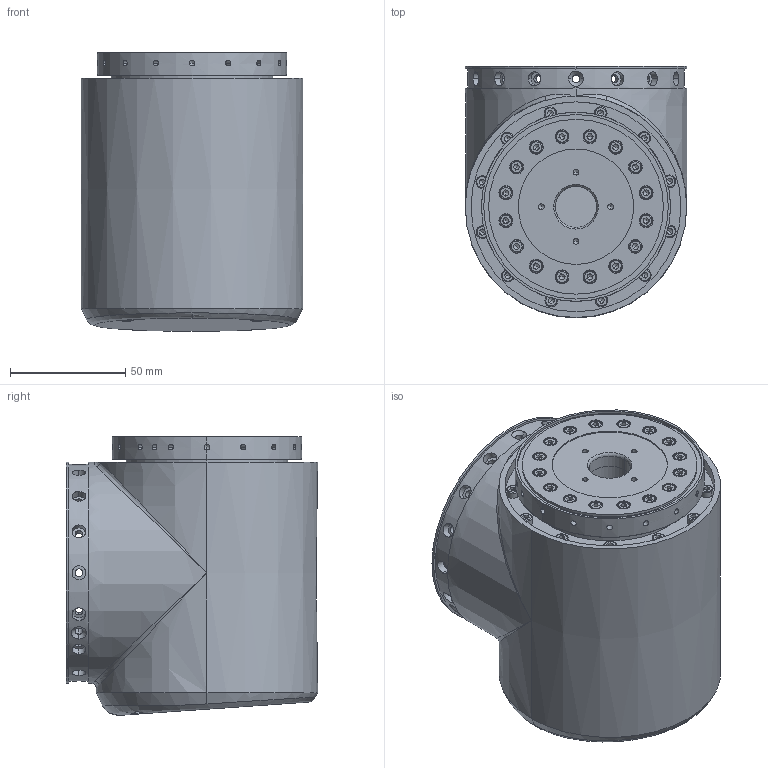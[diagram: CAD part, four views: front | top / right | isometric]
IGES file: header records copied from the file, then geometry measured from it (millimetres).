
Start section: SolidWorks IGES file using analytic representation for surfaces
Global section: file name: C:\Users\Administrator\Desktop\¼ì²é7\eRob90TÐÍ\eRob90H¡Á¡ÁT.IGS; native system: SolidWorks 2021; preprocessor: SolidWorks 2021; author: ZERO; date: 221207.170720; units: millimetre
Bounding box: 96 x 109 x 120.79 mm (x, y, z)
Volume: 707918.1 mm3; surface area: 228538.4 mm2
Topology: 14 solids, 55 shells, 4033 faces, 10317 edges, 6482 vertices
Faces by surface type: plane 2390, revolution 1437, bspline 206
